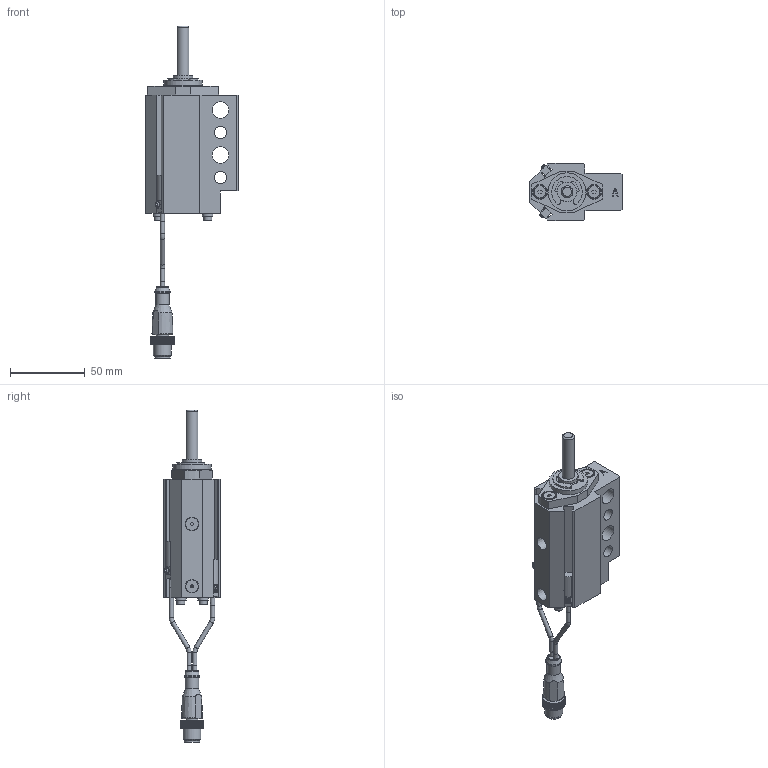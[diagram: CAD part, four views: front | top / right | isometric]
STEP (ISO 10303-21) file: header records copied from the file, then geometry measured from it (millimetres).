
FILE_DESCRIPTION(/* description */ ('NAAMS FLOATING MICRO PIN'),/* implementation_level */ '2;1');
FILE_NAME(/* name */ 'C:\Vault Workspace\CAD\Welker\Shot Pin\NMP\NMP080032EANL3.stp',/* time_stamp */ '2021-01-28T11:55:48-05:00',/* author */ ('WELKER'),/* organization */ (''),/* preprocessor_version */ 'ST-DEVELOPER v18.1',/* originating_system */ 'Autodesk Inventor 2020',/* authorisation */ '');
FILE_SCHEMA (('AUTOMOTIVE_DESIGN { 1 0 10303 214 3 1 1 }'));
Length unit declared in the file: millimetre
Products named in the file (16): NMPL01; NMP L3 SWITCH; L3 Connector; L3 Sensor 1; L3 Sensor 2; L3 Sensor cable; L3 Sensor cable 2; M3X0.5-8 SHCS; NL3; NMPE06; NMPE03; NMPE04-DIA-LENGTH; 985432A218; NMPE01A-PORT; RMPE02; M5X5 SHOULDER
Assembly tree (22 placements, depth 3):
  NMPL01
    NMP L3 SWITCH
      L3 Connector
      L3 Sensor 1
      L3 Sensor 2
      L3 Sensor cable
      L3 Sensor cable 2
    M3X0.5-8 SHCS  x4
    NL3  x4
    NMPE06
    NMPE03
    NMPE04-DIA-LENGTH
    985432A218
    NMPE01A-PORT
    RMPE02
    M5X5 SHOULDER  x2
Bounding box: 62 x 38.1 x 221.52 mm (x, y, z)
Volume: 109463.7 mm3; surface area: 45868.6 mm2
Topology: 21 solids, 21 shells, 744 faces, 2015 edges, 1346 vertices
Faces by surface type: plane 554, cylinder 144, cone 31, torus 11, bspline 2, sphere 2
Full cylindrical faces by diameter (mm): 2 x2, 2.459 x4, 2.9 x10, 3 x5, 3.242 x2, 3.4 x4, 4 x2, 5 x6, 5.5 x4, 7 x4, 8 x3, 8.3 x2, 9 x3, 10 x3, 10.4 x1, 10.5 x1, 11 x2, 12 x1, 13 x3, 16 x2, 19.05 x3, 21 x1, 22.5 x1, 23.672 x1, 24 x1, 25.4 x1, 25.5 x1, 26.5 x1, 28.677 x1, 29.21 x1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
Entity records: 22722 total; most frequent: CARTESIAN_POINT 4149, ORIENTED_EDGE 3728, DIRECTION 3711, EDGE_CURVE 1864, LINE 1383, VECTOR 1383, VERTEX_POINT 1251, AXIS2_PLACEMENT_3D 1164
